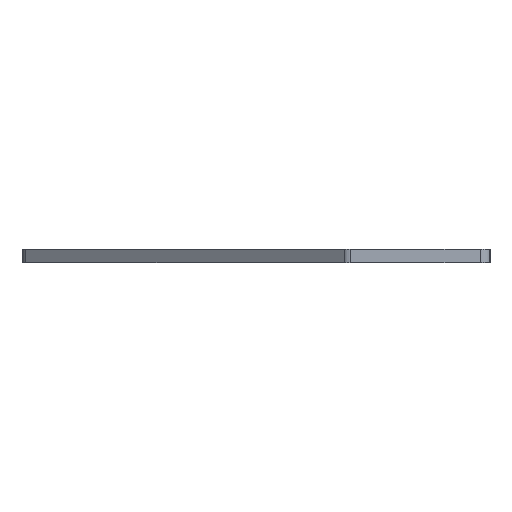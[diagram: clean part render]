
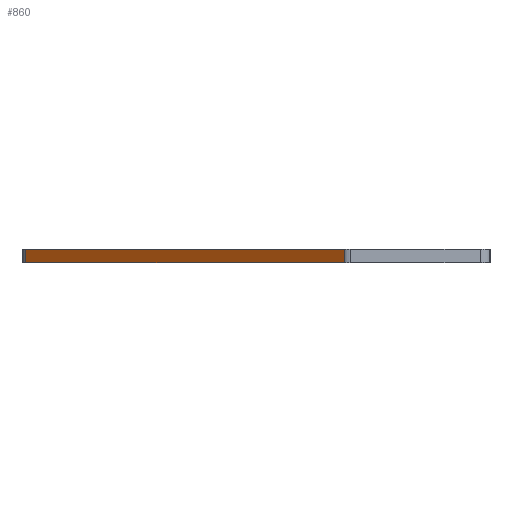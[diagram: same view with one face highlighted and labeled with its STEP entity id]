
A CAD part, left-side view. The second image highlights one B-rep face of the part: STEP entity #860.
In plain terms, the highlighted planar face has unit normal (-0.788, 0.615, 0).
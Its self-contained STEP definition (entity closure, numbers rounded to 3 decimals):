
#5 = CARTESIAN_POINT ( 'NONE',  ( -30.691, 21.588, 4. ) ) ;
#33 = ORIENTED_EDGE ( 'NONE', *, *, #651, .T. ) ;
#34 = DIRECTION ( 'NONE',  ( 0.615, 0.789, 0. ) ) ;
#82 = EDGE_CURVE ( 'NONE', #837, #723, #356, .T. ) ;
#126 = CARTESIAN_POINT ( 'NONE',  ( -29.551, 23.05, 4. ) ) ;
#159 = CARTESIAN_POINT ( 'NONE',  ( -29.551, 23.05, 0. ) ) ;
#211 = DIRECTION ( 'NONE',  ( 0., 0., 1. ) ) ;
#324 = ORIENTED_EDGE ( 'NONE', *, *, #82, .T. ) ;
#355 = EDGE_CURVE ( 'NONE', #439, #723, #683, .T. ) ;
#356 = LINE ( 'NONE', #1054, #1016 ) ;
#439 = VERTEX_POINT ( 'NONE', #598 ) ;
#457 = CARTESIAN_POINT ( 'NONE',  ( 45.774, 119.62, 0. ) ) ;
#471 = VECTOR ( 'NONE', #804, 1000. ) ;
#478 = ORIENTED_EDGE ( 'NONE', *, *, #355, .F. ) ;
#529 = EDGE_LOOP ( 'NONE', ( #805, #324, #478, #33 ) ) ;
#534 = DIRECTION ( 'NONE',  ( 0.789, -0.615, 0. ) ) ;
#584 = AXIS2_PLACEMENT_3D ( 'NONE', #697, #534, #34 ) ;
#598 = CARTESIAN_POINT ( 'NONE',  ( 45.774, 119.62, 4. ) ) ;
#614 = PLANE ( 'NONE',  #584 ) ;
#640 = CARTESIAN_POINT ( 'NONE',  ( 45.774, 119.62, 0. ) ) ;
#651 = EDGE_CURVE ( 'NONE', #439, #814, #1056, .T. ) ;
#668 = DIRECTION ( 'NONE',  ( -0.615, -0.789, 0. ) ) ;
#683 = LINE ( 'NONE', #126, #471 ) ;
#697 = CARTESIAN_POINT ( 'NONE',  ( -29.551, 23.05, 4. ) ) ;
#723 = VERTEX_POINT ( 'NONE', #5 ) ;
#732 = DIRECTION ( 'NONE',  ( 0., 0., -1. ) ) ;
#763 = LINE ( 'NONE', #159, #963 ) ;
#804 = DIRECTION ( 'NONE',  ( -0.615, -0.789, 0. ) ) ;
#805 = ORIENTED_EDGE ( 'NONE', *, *, #949, .T. ) ;
#814 = VERTEX_POINT ( 'NONE', #457 ) ;
#830 = VECTOR ( 'NONE', #732, 1000. ) ;
#837 = VERTEX_POINT ( 'NONE', #972 ) ;
#860 = ADVANCED_FACE ( 'NONE', ( #899 ), #614, .F. ) ;
#899 = FACE_OUTER_BOUND ( 'NONE', #529, .T. ) ;
#949 = EDGE_CURVE ( 'NONE', #814, #837, #763, .T. ) ;
#963 = VECTOR ( 'NONE', #668, 1000. ) ;
#972 = CARTESIAN_POINT ( 'NONE',  ( -30.691, 21.588, 0. ) ) ;
#1016 = VECTOR ( 'NONE', #211, 1000. ) ;
#1054 = CARTESIAN_POINT ( 'NONE',  ( -30.691, 21.588, 4. ) ) ;
#1056 = LINE ( 'NONE', #640, #830 ) ;
